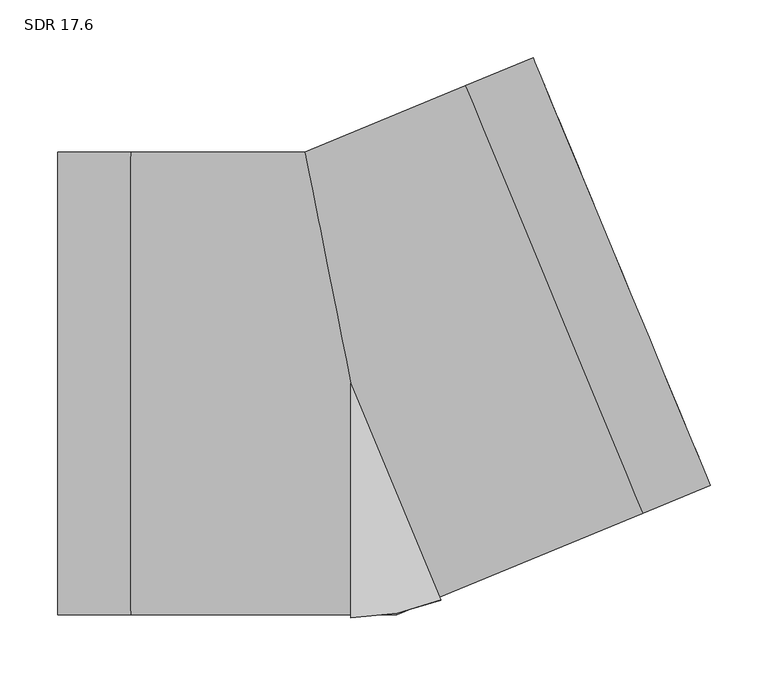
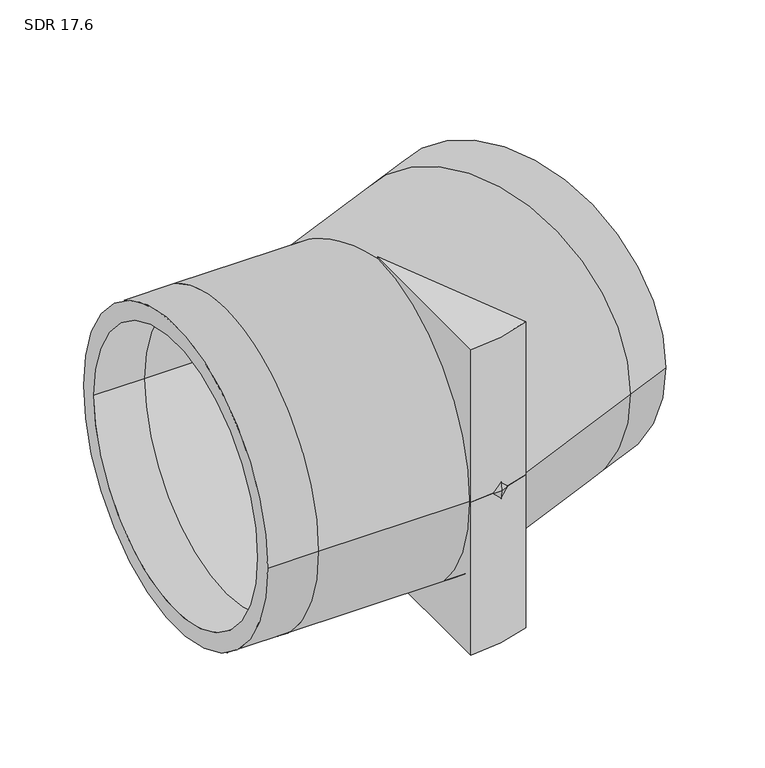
"""IFC4 building model written with IfcOpenShell, lengths in millimetres: pipe fitting geometry, Aquatherm - Elbow Blue BW Segmented : SDR 17.6."""

from ifc_helpers import new_model, si_unit, point, frame, origin, origin_with_axes, origin_2d, place, context, project, spatial, polyline, circle_curve, ellipse_curve, trimmed, segment, composite_curve, outline, extrude, source, transform, mapped, element, save
from ifc_brep_helpers import plane_surface, cylinder_surface, revolved_surface, advanced_brep


def sdr_17_6_b1c550d2(model_context):
    return source(origin(), model_context, "Body", "SolidModel", [
        extrude(outline(composite_curve([segment(polyline([(0.0, -203.2), (0.0, 0.0), (77.7612735, -187.732321)]), True, "CONTINUOUS"), segment(trimmed(circle_curve(origin_2d(), 203.2), [point((77.7612735, -187.732321))], [point((0.0, -203.2))], False, "CARTESIAN"), True, "CONTINUOUS")], self_intersect=False)), frame((0.0, 0.0, -203.2), z_axis=(0.0, 0.0, 1.0), x_axis=(1.0, 0.0, 0.0)), (0.0, 0.0, 1.0), 203.2),
        extrude(outline(composite_curve([segment(trimmed(circle_curve(origin_2d(), 203.2), [point((77.7612735, -187.732321))], [point((0.0, -203.2))], False, "CARTESIAN"), True, "CONTINUOUS"), segment(polyline([(0.0, -203.2), (0.0, 0.0), (77.7612735, -187.732321)]), True, "CONTINUOUS")], self_intersect=False)), origin_with_axes(), (0.0, 0.0, 1.0), 203.2),
        advanced_brep(
        [(-254.0, -200.66, 0.0), (-254.0, 200.66, 0.0), (-254.0, -177.8597514, 0.0), (-254.0, 177.8597514, 0.0), (311.4546588, -88.1840752, 0.0), (157.8761437, 282.5872588, 0.0), (302.7293814, -67.1193922, 0.0), (166.6014211, 261.5225758, 0.0), (-190.5, -200.66, 0.0), (-190.5, 200.66, 0.0), (-190.5, -177.8597514, 0.0), (-190.5, 177.8597514, 0.0), (39.9137556, -200.66, 0.0), (-39.9137556, 200.66, 0.0), (35.3785042, -177.8597514, 0.0), (-35.3785042, 177.8597514, 0.0), (252.7883085, -112.4844731, 0.0), (99.2097934, 258.2868609, 0.0), (244.0630311, -91.4197901, 0.0), (107.9350708, 237.2221779, 0.0)],
        [
            (0, 1, circle_curve(frame((-254.0, 0.0, 0.0), z_axis=(-1.0, 0.0, 0.0), x_axis=(0.0, 1.0, 0.0)), 200.66)),
            (1, 0, circle_curve(frame((-254.0, 0.0, 0.0), z_axis=(-1.0, 0.0, 0.0), x_axis=(0.0, 1.0, 0.0)), 200.66)),
            (2, 3, circle_curve(frame((-254.0, 0.0, 0.0), z_axis=(1.0, 0.0, 0.0), x_axis=(0.0, 1.0, 0.0)), 177.8597514)),
            (3, 2, circle_curve(frame((-254.0, 0.0, 0.0), z_axis=(1.0, 0.0, 0.0), x_axis=(0.0, 1.0, 0.0)), 177.8597514)),
            (4, 5, circle_curve(frame((234.6654013, 97.2015918, 0.0), z_axis=(0.923879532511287, 0.3826834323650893, 0.0), x_axis=(-0.3826834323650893, 0.923879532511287, 0.0)), 200.66)),
            (5, 4, circle_curve(frame((234.6654013, 97.2015918, 0.0), z_axis=(0.923879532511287, 0.3826834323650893, 0.0), x_axis=(-0.3826834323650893, 0.923879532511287, 0.0)), 200.66)),
            (6, 7, circle_curve(frame((234.6654013, 97.2015918, 0.0), z_axis=(-0.923879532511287, -0.3826834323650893, 0.0), x_axis=(-0.3826834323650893, 0.923879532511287, 0.0)), 177.8597514)),
            (7, 6, circle_curve(frame((234.6654013, 97.2015918, 0.0), z_axis=(-0.923879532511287, -0.3826834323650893, 0.0), x_axis=(-0.3826834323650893, 0.923879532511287, 0.0)), 177.8597514)),
            (0, 8),
            (8, 9, circle_curve(frame((-190.5, 0.0, 0.0), z_axis=(-1.0, 0.0, 0.0), x_axis=(0.0, 1.0, 0.0)), 200.66)),
            (9, 1),
            (9, 8, circle_curve(frame((-190.5, 0.0, 0.0), z_axis=(-1.0, 0.0, 0.0), x_axis=(0.0, 1.0, 0.0)), 200.66)),
            (2, 10),
            (10, 11, circle_curve(frame((-190.5, 0.0, 0.0), z_axis=(1.0, 0.0, 0.0), x_axis=(0.0, 1.0, 0.0)), 177.8597514)),
            (11, 3),
            (11, 10, circle_curve(frame((-190.5, 0.0, 0.0), z_axis=(1.0, 0.0, 0.0), x_axis=(0.0, 1.0, 0.0)), 177.8597514)),
            (8, 12),
            (12, 13, ellipse_curve(frame((0.0, 0.0, 0.0), z_axis=(-0.9807852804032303, -0.19509032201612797, 0.0), x_axis=(-0.19509032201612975, 0.9807852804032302, 0.0)), 204.5911618, 200.66)),
            (13, 9),
            (13, 12, ellipse_curve(frame((0.0, 0.0, 0.0), z_axis=(-0.9807852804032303, -0.19509032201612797, 0.0), x_axis=(-0.19509032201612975, 0.9807852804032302, 0.0)), 204.5911618, 200.66)),
            (10, 14),
            (14, 15, ellipse_curve(frame((0.0, 0.0, 0.0), z_axis=(0.9807852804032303, 0.19509032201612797, 0.0), x_axis=(0.19509032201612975, -0.9807852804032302, 0.0)), 181.34423, 177.8597514)),
            (15, 11),
            (15, 14, ellipse_curve(frame((0.0, 0.0, 0.0), z_axis=(0.9807852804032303, 0.19509032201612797, 0.0), x_axis=(0.19509032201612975, -0.9807852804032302, 0.0)), 181.34423, 177.8597514)),
            (12, 16),
            (16, 17, circle_curve(frame((175.9990509, 72.9011939, 0.0), z_axis=(-0.923879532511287, -0.3826834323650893, 0.0), x_axis=(-0.3826834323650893, 0.923879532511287, 0.0)), 200.66)),
            (17, 13),
            (17, 16, circle_curve(frame((175.9990509, 72.9011939, 0.0), z_axis=(-0.923879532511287, -0.3826834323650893, 0.0), x_axis=(-0.3826834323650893, 0.923879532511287, 0.0)), 200.66)),
            (14, 18),
            (18, 19, circle_curve(frame((175.9990509, 72.9011939, 0.0), z_axis=(0.923879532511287, 0.3826834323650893, 0.0), x_axis=(-0.3826834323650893, 0.923879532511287, 0.0)), 177.8597514)),
            (19, 15),
            (19, 18, circle_curve(frame((175.9990509, 72.9011939, 0.0), z_axis=(0.923879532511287, 0.3826834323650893, 0.0), x_axis=(-0.3826834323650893, 0.923879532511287, 0.0)), 177.8597514)),
            (16, 4),
            (5, 17),
            (18, 6),
            (7, 19),
        ],
        [
            plane_surface(frame((-254.0, 0.0, 0.0), z_axis=(-1.0, 0.0, 0.0), x_axis=(0.0, 0.0, 1.0))),
            plane_surface(frame((234.6654013, 97.2015918, 0.0), z_axis=(0.923879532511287, 0.3826834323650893, 0.0), x_axis=(0.0, 0.0, 1.0))),
            cylinder_surface(frame((-254.0, 0.0, 0.0), z_axis=(-1.0, 0.0, 0.0), x_axis=(0.0, 1.0, 0.0)), 200.66),
            revolved_surface(polyline([(-190.5, 177.8597514, 0.0), (-254.0, 177.8597514, 0.0)]), (-254.0, 0.0, 0.0), (1.0, 0.0, 0.0)),
            cylinder_surface(frame((-190.5, 0.0, 0.0), z_axis=(-1.0, 0.0, 0.0), x_axis=(0.0, 1.0, 0.0)), 200.66),
            revolved_surface(polyline([(35.3785042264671, 177.8597514, 0.0), (-190.5, 177.8597514, 0.0)]), (-190.5, 0.0, 0.0), (1.0, 0.0, 0.0)),
            cylinder_surface(frame((0.0, 0.0, 0.0), z_axis=(-0.923879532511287, -0.3826834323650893, 0.0), x_axis=(-0.3826834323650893, 0.923879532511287, 0.0)), 200.66),
            revolved_surface(polyline([(107.93507082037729, 237.22217785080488, 0.0), (-100.74945609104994, 150.7822165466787, 0.0)]), (0.0, 0.0, 0.0), (0.923879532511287, 0.3826834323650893, 0.0)),
            cylinder_surface(frame((175.9990509, 72.9011939, 0.0), z_axis=(-0.923879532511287, -0.3826834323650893, 0.0), x_axis=(-0.3826834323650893, 0.923879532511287, 0.0)), 200.66),
            revolved_surface(polyline([(166.60142112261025, 261.5225758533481, 0.0), (107.93507075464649, 237.22217787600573, 0.0)]), (175.9990509, 72.9011939, 0.0), (0.923879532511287, 0.3826834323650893, 0.0)),
        ],
        [
            (0, [[1, 2], [3, 4]]),
            (1, [[5, 6], [7, 8]]),
            (2, [[-1, 9, 10, 11]]),
            (2, [[-2, -11, 12, -9]]),
            (3, [[-3, 13, 14, 15]]),
            (3, [[-4, -15, 16, -13]]),
            (4, [[-10, 17, 18, 19]]),
            (4, [[-12, -19, 20, -17]]),
            (5, [[-14, 21, 22, 23]]),
            (5, [[-16, -23, 24, -21]]),
            (6, [[-18, 25, 26, 27]]),
            (6, [[-20, -27, 28, -25]]),
            (7, [[-22, 29, 30, 31]]),
            (7, [[-24, -31, 32, -29]]),
            (8, [[-26, 33, -6, 34]]),
            (8, [[-28, -34, -5, -33]]),
            (9, [[-30, 35, -8, 36]]),
            (9, [[-32, -36, -7, -35]]),
        ],
    ),
    ])


if __name__ == "__main__":
    model = new_model("IFC4")
    model_context = context("Model", 3, world=origin())
    ifc_project = project(units=[si_unit("LENGTHUNIT", "METRE", prefix="MILLI")], contexts=[model_context])
    site = spatial("IfcSite", under=ifc_project)
    building = spatial("IfcBuilding", under=site)
    placement = place(None, origin())
    sdr_17_6_shape = sdr_17_6_b1c550d2(model_context)
    element("IfcPipeFitting", 1, ObjectType="Aquatherm - Elbow Blue BW Segmented : SDR 17.6", at=placement, inside=building, context=model_context, shape_type="MappedRepresentation", body=[
        mapped(sdr_17_6_shape, transform((0.0, 0.0, 0.0), x_axis=(1.0, 0.0, 0.0), y_axis=(0.0, 1.0, 0.0), z_axis=(0.0, 0.0, 1.0))),
    ])
    save(model, "model.ifc")
